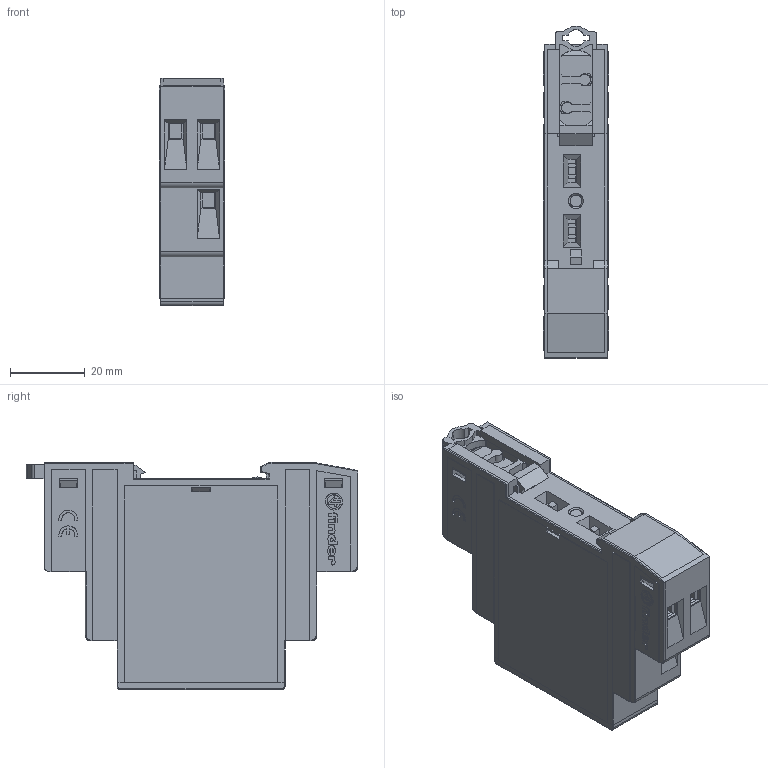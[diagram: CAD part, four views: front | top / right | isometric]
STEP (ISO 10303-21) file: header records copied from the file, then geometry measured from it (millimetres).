
FILE_DESCRIPTION(('STEP AP214'),'2;1');
FILE_NAME('19_32---catalogo_OK.stp','2011-02-23T16:34:39',(''),(''),'2007.1.106','THINKDESIGN','');
FILE_SCHEMA(('AUTOMOTIVE_DESIGN'));
Products named in the file (1): None
Bounding box: 17.5 x 88.85 x 60.8 mm (x, y, z)
Surface area: 20693.4 mm2 (no closed solid volume)
Topology: 0 solids, 0 shells, 1282 faces, 8073 edges, 8053 vertices
Faces by surface type: plane 1027, bspline 132, cylinder 123
Full cylindrical faces by diameter (mm): 3 x9, 5 x7
Entity records: 81213 total; most frequent: CARTESIAN_POINT 24700, DIRECTION 9734, COMPOSITE_CURVE_SEGMENT 8073, TRIMMED_CURVE 7162, VECTOR 6946, LINE 6946, AXIS2_PLACEMENT_3D 1394, OUTER_BOUNDARY_CURVE 1282
